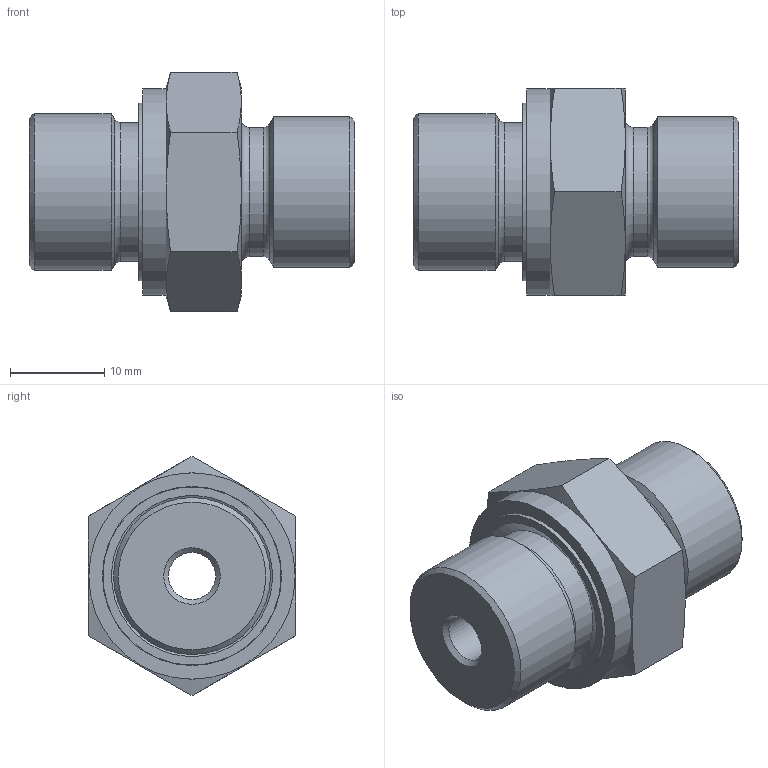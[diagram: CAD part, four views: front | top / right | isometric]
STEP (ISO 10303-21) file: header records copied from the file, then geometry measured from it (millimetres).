
FILE_DESCRIPTION( ( 'Unknown' ), '1' );
FILE_NAME( 'C:/Users/p.nanko/Desktop/3D SR/XGE08SED03.stp', 'Unknown', ( 'Peter Nanko' ), ( 'Armaturen Arndt' ), 'PSStep 14.0', 'Solid Edge ST4', ' ' );
FILE_SCHEMA( ( 'AUTOMOTIVE_DESIGN { 1 0 10303 214 1 1 1 1 }' ) );
Length unit declared in the file: millimetre
Products named in the file (3): Assem1; EDRING03; XGE08SED033
Assembly tree (2 placements, depth 2):
  Assem1
    EDRING03
    XGE08SED033
Bounding box: 34.5 x 22 x 25.4 mm (x, y, z)
Volume: 8050.5 mm3; surface area: 3940.4 mm2
Topology: 2 solids, 2 shells, 38 faces, 75 edges, 46 vertices
Faces by surface type: plane 15, cylinder 10, cone 9, torus 4
Full cylindrical faces by diameter (mm): 5 x1, 8 x1, 13.7 x1, 14.7 x2, 16 x1, 16.662 x1, 18.9 x1, 19 x1, 21.9 x1
Entity records: 1274 total; most frequent: CARTESIAN_POINT 233, DIRECTION 150, ORIENTED_EDGE 98, AXIS2_PLACEMENT_3D 72, EDGE_LOOP 70, FACE_OUTER_BOUND 52, EDGE_CURVE 49, VERTEX_POINT 43
